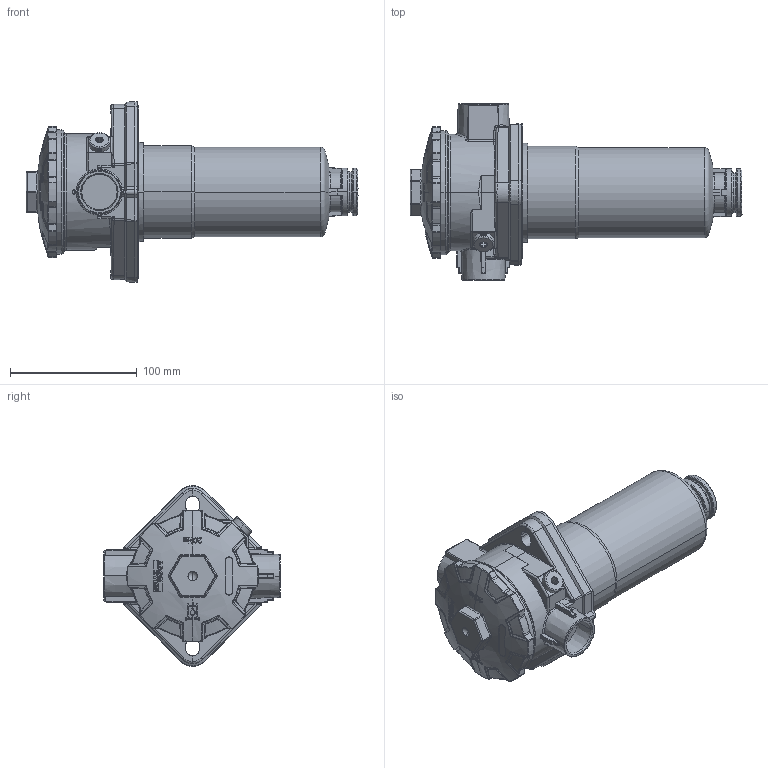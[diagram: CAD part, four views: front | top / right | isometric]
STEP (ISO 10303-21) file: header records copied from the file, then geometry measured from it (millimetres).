
FILE_DESCRIPTION((''),'2;1');
FILE_NAME('E_103-676_SECHSKANT','2024-08-14T11:30:30',('a.heinl'),(''),'CREO PARAMETRIC BY PTC INC, 2023254','CREO PARAMETRIC BY PTC INC, 2023254','');
FILE_SCHEMA(('AUTOMOTIVE_DESIGN { 1 0 10303 214 1 1 1 1 }'));
Length unit declared in the file: millimetre
Products named in the file (1): E_103-676_SECHSKANT
Bounding box: 262.05 x 139 x 142.55 mm (x, y, z)
Volume: 1221521.2 mm3; surface area: 112452.6 mm2
Topology: 1 solids, 3 shells, 1359 faces, 3514 edges, 2170 vertices
Faces by surface type: plane 510, bspline 299, cylinder 266, torus 111, cone 103, sphere 55, extrusion 15
Entity records: 79270 total; most frequent: CARTESIAN_POINT 25510, ORIENTED_EDGE 6966, DIRECTION 5736, PRESENTATION_STYLE_ASSIGNMENT 4856, STYLED_ITEM 3499, CURVE_STYLE 3498, EDGE_CURVE 3483, AXIS2_PLACEMENT_3D 2311
